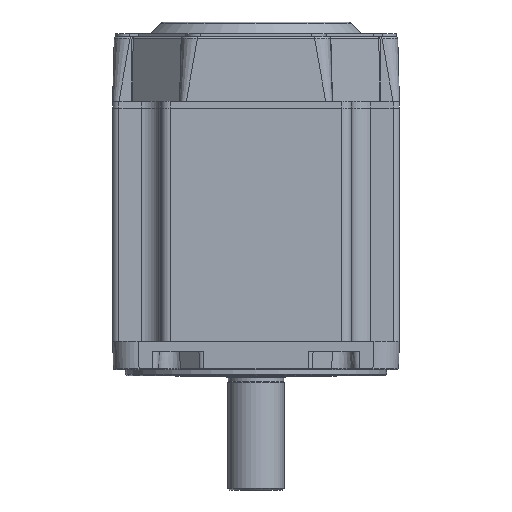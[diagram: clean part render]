
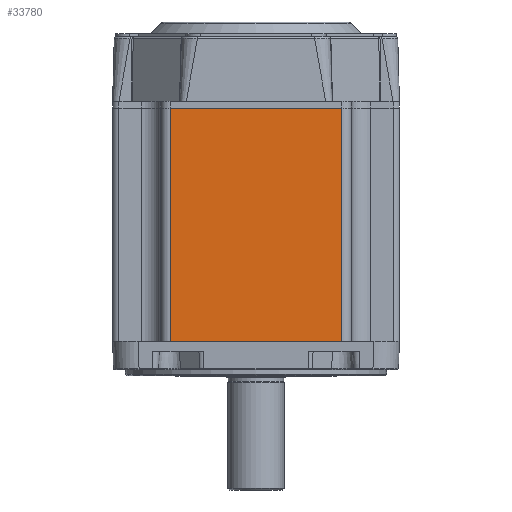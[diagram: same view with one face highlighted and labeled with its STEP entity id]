
A CAD part, front view. The second image highlights one B-rep face of the part: STEP entity #33780.
In plain terms, the highlighted planar face has unit normal (0, -1, 0).
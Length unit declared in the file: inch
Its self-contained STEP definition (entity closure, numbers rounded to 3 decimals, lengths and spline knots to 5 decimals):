
#30245=CARTESIAN_POINT('',(1.6825,-2.81,-4.57));
#30246=VERTEX_POINT('',#30245);
#30253=CARTESIAN_POINT('',(-1.6825,-2.81,-4.57));
#30254=VERTEX_POINT('',#30253);
#30255=CARTESIAN_POINT('',(-1.6825,-2.81,-4.57));
#30256=DIRECTION('',(1.0,0.0,0.0));
#30257=VECTOR('',#30256,3.365);
#30258=LINE('',#30255,#30257);
#30259=EDGE_CURVE('',#30254,#30246,#30258,.T.);
#33706=CARTESIAN_POINT('',(1.6825,-2.81,0.0));
#33707=VERTEX_POINT('',#33706);
#33715=CARTESIAN_POINT('',(1.6825,-2.81,0.0));
#33716=DIRECTION('',(0.0,0.0,-1.0));
#33717=VECTOR('',#33716,4.57);
#33718=LINE('',#33715,#33717);
#33719=EDGE_CURVE('',#33707,#30246,#33718,.T.);
#33757=CARTESIAN_POINT('',(1.87,-2.81,0.0));
#33758=DIRECTION('',(0.0,-1.0,0.0));
#33759=DIRECTION('',(0.0,0.0,-1.0));
#33760=AXIS2_PLACEMENT_3D('',#33757,#33758,#33759);
#33761=PLANE('',#33760);
#33762=CARTESIAN_POINT('',(-1.6825,-2.81,0.0));
#33763=VERTEX_POINT('',#33762);
#33764=CARTESIAN_POINT('',(1.6825,-2.81,0.0));
#33765=DIRECTION('',(-1.0,0.0,0.0));
#33766=VECTOR('',#33765,3.365);
#33767=LINE('',#33764,#33766);
#33768=EDGE_CURVE('',#33707,#33763,#33767,.T.);
#33769=ORIENTED_EDGE('',*,*,#33768,.T.);
#33770=CARTESIAN_POINT('',(-1.6825,-2.81,-4.57));
#33771=DIRECTION('',(0.0,0.0,1.0));
#33772=VECTOR('',#33771,4.57);
#33773=LINE('',#33770,#33772);
#33774=EDGE_CURVE('',#30254,#33763,#33773,.T.);
#33775=ORIENTED_EDGE('',*,*,#33774,.F.);
#33776=ORIENTED_EDGE('',*,*,#30259,.T.);
#33777=ORIENTED_EDGE('',*,*,#33719,.F.);
#33778=EDGE_LOOP('',(#33769,#33775,#33776,#33777));
#33779=FACE_OUTER_BOUND('',#33778,.T.);
#33780=ADVANCED_FACE('',(#33779),#33761,.T.);
